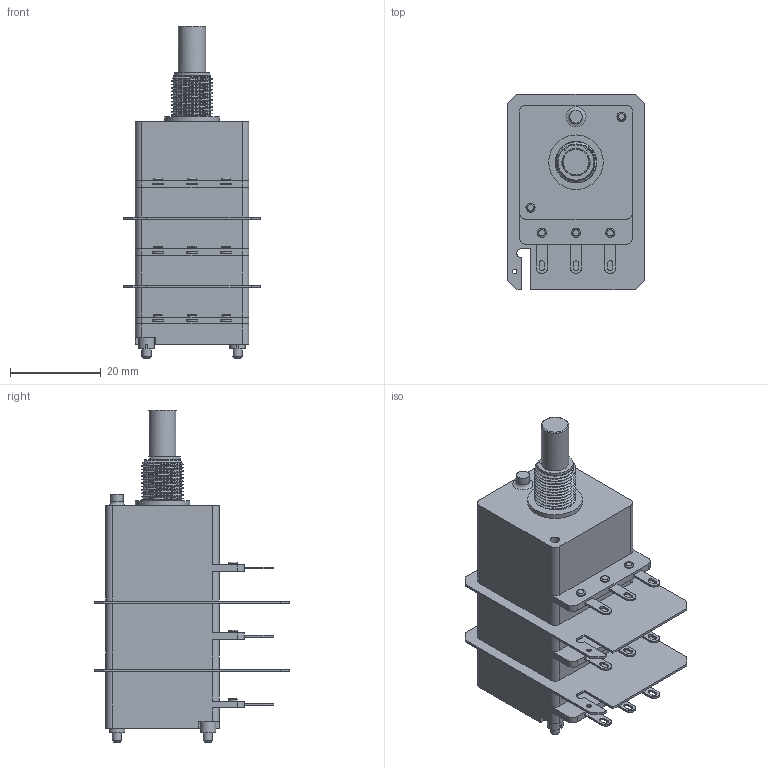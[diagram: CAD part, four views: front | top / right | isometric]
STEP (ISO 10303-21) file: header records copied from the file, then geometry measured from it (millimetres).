
FILE_DESCRIPTION(('FreeCAD Model'),'2;1');
FILE_NAME('Open CASCADE Shape Model','2026-07-14T16:53:07',(''),(''), 'Open CASCADE STEP processor 7.8','FreeCAD','Unknown');
FILE_SCHEMA(('AUTOMOTIVE_DESIGN { 1 0 10303 214 1 1 1 1 }'));
Length unit declared in the file: millimetre
Products named in the file (1): 3CP25XX-S-6R20
Bounding box: 30 x 43 x 73 mm (x, y, z)
Volume: 32430.4 mm3; surface area: 12293.2 mm2
Topology: 1 solids, 20 shells, 400 faces, 924 edges, 605 vertices
Faces by surface type: plane 218, cylinder 127, bspline 38, torus 11, cone 6
Full cylindrical faces by diameter (mm): 1 x2, 1.9 x10, 2 x25, 2.2 x14, 2.8 x1, 3.5 x2, 4.5 x3, 5.4 x1, 6 x1, 6.05 x1, 8 x1, 9 x2, 12 x1
Entity records: 18097 total; most frequent: CARTESIAN_POINT 6254, DIRECTION 1888, ORIENTED_EDGE 1846, EDGE_CURVE 923, AXIS2_PLACEMENT_3D 704, VERTEX_POINT 605, FACE_BOUND 482, EDGE_LOOP 482
